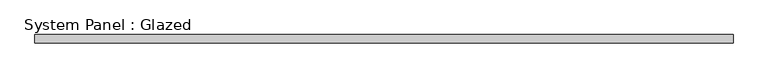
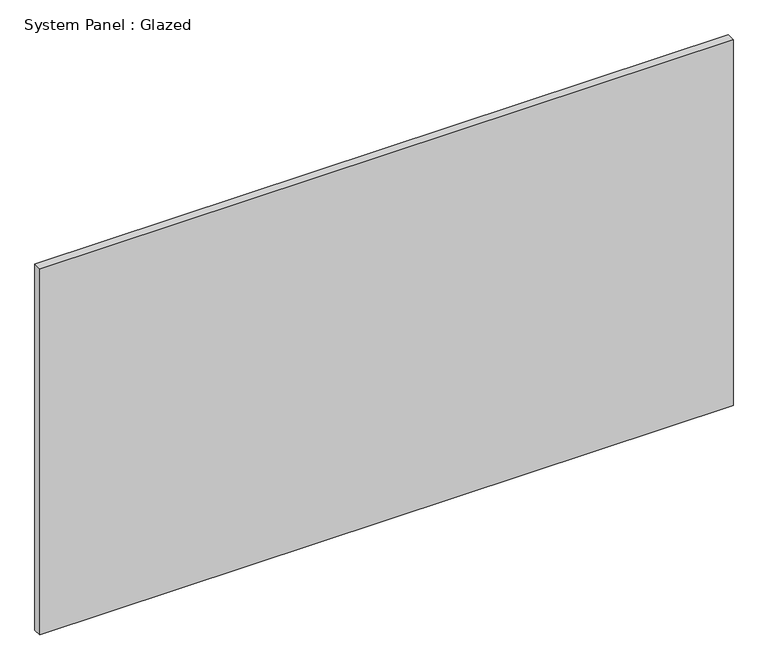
"""IFC4 building model written with IfcOpenShell, lengths in millimetres: plate geometry, System Panel : Glazed."""

import ifcopenshell
import ifcopenshell.guid

model = None  # the IFC model being written
_history = None  # IfcOwnerHistory: only IFC2X3 demands one
_inside = {}  # id of a spatial element -> (the spatial element, [elements in it])
_under = {}  # id of a project, library or spatial element -> (it, [spatial elements below it])
_declared = {}  # id of a project -> (the project, [libraries it declares])
_typed = {}  # id of a type object -> (the type object, [elements of that type])
_made_of = {}  # id of a material, layer set ... -> (it, [elements and type objects made of it])


def new_model(schema):
    """Start an empty IFC model of exactly this schema.

    Asked for "IFC4X3", IfcOpenShell would pick the latest addendum, in which some entities
    have other attributes; the version numbers below select the first issue.
    IFC2X3 requires an IfcOwnerHistory on every rooted entity: one is made here for all.
    """
    global model, _history
    if schema == "IFC4X3":
        model = ifcopenshell.file(schema_version=(4, 3, 0, 0))
    else:
        model = ifcopenshell.file(schema=schema)
    _inside.clear()
    _under.clear()
    _declared.clear()
    _typed.clear()
    _made_of.clear()
    _history = None
    if model.schema == "IFC2X3":
        org = make("IfcOrganization", Name="unknown")
        user = make(
            "IfcPersonAndOrganization",
            ThePerson=make("IfcPerson", FamilyName="unknown"),
            TheOrganization=org,
        )
        app = make(
            "IfcApplication",
            ApplicationDeveloper=org,
            Version="unknown",
            ApplicationFullName="unknown",
            ApplicationIdentifier="unknown",
        )
        _history = make(
            "IfcOwnerHistory",
            OwningUser=user,
            OwningApplication=app,
            ChangeAction="ADDED",
            CreationDate=0,
        )
    return model


def make(cls, **values):
    """One entity of the class cls with the attributes given. An attribute that is None is left unset."""
    return model.create_entity(
        cls, **{name: value for name, value in values.items() if value is not None}
    )


def rooted(cls, **values):
    """An entity with a GlobalId (a new one), such as an element, a storey or a relation."""
    return make(cls, GlobalId=ifcopenshell.guid.new(), OwnerHistory=_history, **values)


def si_unit(unit_type, name, prefix=None):
    """IfcSIUnit, for example si_unit("LENGTHUNIT", "METRE", prefix="MILLI")."""
    return make("IfcSIUnit", UnitType=unit_type, Prefix=prefix, Name=name)


def assignment(units):
    """IfcUnitAssignment: the units of a project."""
    return None if units is None else make("IfcUnitAssignment", Units=units)


def point(xyz):
    """IfcCartesianPoint."""
    return None if xyz is None else make("IfcCartesianPoint", Coordinates=xyz)


def direction(xyz):
    """IfcDirection."""
    return None if xyz is None else make("IfcDirection", DirectionRatios=xyz)


def frame(location, z_axis=None, x_axis=None):
    """IfcAxis2Placement3D, a coordinate frame: its origin and axes. An axis left out is left unset."""
    return make(
        "IfcAxis2Placement3D",
        Location=point(location),
        Axis=direction(z_axis),
        RefDirection=direction(x_axis),
    )


def origin():
    """The frame at (0, 0, 0) with its axes left unset."""
    return frame((0.0, 0.0, 0.0))


def origin_with_axes():
    """The frame at (0, 0, 0) with the z axis (0, 0, 1) and the x axis (1, 0, 0) written out."""
    return frame((0.0, 0.0, 0.0), z_axis=(0.0, 0.0, 1.0), x_axis=(1.0, 0.0, 0.0))


def place(relative_to, where):
    """IfcLocalPlacement: puts the frame where relative to a parent placement (None: the world)."""
    return make(
        "IfcLocalPlacement", PlacementRelTo=relative_to, RelativePlacement=where
    )


def context(
    kind, dimensions, precision=None, world=None, true_north=None, identifier=None
):
    """IfcGeometricRepresentationContext, for example the 3D "Model" context."""
    return make(
        "IfcGeometricRepresentationContext",
        ContextIdentifier=identifier,
        ContextType=kind,
        CoordinateSpaceDimension=dimensions,
        Precision=precision,
        WorldCoordinateSystem=world,
        TrueNorth=true_north,
    )


def project(units=None, contexts=None):
    """IfcProject with its units and contexts."""
    return rooted(
        "IfcProject",
        Name="project",
        RepresentationContexts=contexts,
        UnitsInContext=assignment(units),
    )


def spatial(cls, under=None, at=None, **own):
    """A site, building, storey or space (cls), placed at a placement, below another one or the project."""
    s = rooted(cls, ObjectPlacement=at, **own)
    if under is not None:
        _under.setdefault(under.id(), (under, []))[1].append(s)
    return s


def polyline(points):
    """IfcPolyline through the points."""
    return make("IfcPolyline", Points=[point(p) for p in points])


def outline(outer, holes=None, kind="AREA"):
    """IfcArbitraryClosedProfileDef: a profile drawn as a closed curve; with holes, ...WithVoids."""
    if holes is None:
        return make("IfcArbitraryClosedProfileDef", ProfileType=kind, OuterCurve=outer)
    return make(
        "IfcArbitraryProfileDefWithVoids",
        ProfileType=kind,
        OuterCurve=outer,
        InnerCurves=holes,
    )


def extrude(swept, where, along, depth):
    """IfcExtrudedAreaSolid: the profile swept, set in the frame where, extruded along a direction by depth."""
    return make(
        "IfcExtrudedAreaSolid",
        SweptArea=swept,
        Position=where,
        ExtrudedDirection=direction(along),
        Depth=depth,
    )


def shape(context_of_items, identifier, shape_type, items):
    """IfcShapeRepresentation: the items that make up one representation, for example the "Body"."""
    return make(
        "IfcShapeRepresentation",
        ContextOfItems=context_of_items,
        RepresentationIdentifier=identifier,
        RepresentationType=shape_type,
        Items=items,
    )


def source(mapping_origin, context_of_items, identifier, shape_type, items):
    """IfcRepresentationMap: a shape defined once, which mapped items show again and again."""
    return make(
        "IfcRepresentationMap",
        MappingOrigin=mapping_origin,
        MappedRepresentation=shape(context_of_items, identifier, shape_type, items),
    )


def transform(
    local_origin,
    x_axis=None,
    y_axis=None,
    z_axis=None,
    scale=None,
    scale2=None,
    scale3=None,
    uniform=True,
):
    """IfcCartesianTransformationOperator3D, or its non-uniform kind. x_axis, y_axis, z_axis: its Axis1, 2, 3."""
    if uniform:
        return make(
            "IfcCartesianTransformationOperator3D",
            Axis1=direction(x_axis),
            Axis2=direction(y_axis),
            LocalOrigin=point(local_origin),
            Scale=scale,
            Axis3=direction(z_axis),
        )
    return make(
        "IfcCartesianTransformationOperator3DnonUniform",
        Axis1=direction(x_axis),
        Axis2=direction(y_axis),
        LocalOrigin=point(local_origin),
        Scale=scale,
        Axis3=direction(z_axis),
        Scale2=scale2,
        Scale3=scale3,
    )


def mapped(mapping_source, mapping_target):
    """IfcMappedItem: shows the shape of a source again, moved by a transform."""
    return make(
        "IfcMappedItem", MappingSource=mapping_source, MappingTarget=mapping_target
    )


def made_of(thing, what):
    """Note that an element or type object is made of a material, layer set ...; save() writes the relation."""
    if what is not None:
        _made_of.setdefault(what.id(), (what, []))[1].append(thing)
    return thing


def element(
    cls,
    number,
    at=None,
    inside=None,
    cuts=None,
    type_object=None,
    material=None,
    context=None,
    identifier="Body",
    shape_type=None,
    held_by="IfcProductDefinitionShape",
    body=None,
    shapes=None,
    **own,
):
    """One element of the class cls, such as IfcWall. Its Tag is "e" and its number.

    at: its placement. inside: the storey or other place that contains it. cuts: it is an
    opening in that element (IfcRelVoidsElement). A single representation is given by context,
    identifier, shape_type and body (its items); several are given by shapes. held_by: the class
    of the entity that holds the representations. save() writes the other relations.
    """
    e = rooted(cls, Tag="e%d" % number, ObjectPlacement=at, **own)
    if body is not None:
        shapes = [shape(context, identifier, shape_type, body)]
    if shapes is not None:
        e.Representation = make(held_by, Representations=shapes)
    if inside is not None:
        _inside.setdefault(inside.id(), (inside, []))[1].append(e)
    if cuts is not None:
        rooted(
            "IfcRelVoidsElement", RelatingBuildingElement=cuts, RelatedOpeningElement=e
        )
    if type_object is not None:
        _typed.setdefault(type_object.id(), (type_object, []))[1].append(e)
    return made_of(e, material)


def aggregate(whole, parts):
    """IfcRelAggregates: a whole, such as a stair, and the parts it consists of."""
    return rooted("IfcRelAggregates", RelatingObject=whole, RelatedObjects=parts)


def save(model, path):
    """Write the relations noted so far, then the file.

    IfcRelAggregates (storeys below a building ...), IfcRelContainedInSpatialStructure (elements
    in a storey), IfcRelDefinesByType, IfcRelAssociatesMaterial and IfcRelDeclares: one each for
    every whole, place, type object, material and project.
    """
    for whole, parts in _under.values():
        aggregate(whole, parts)
    for where, things in _inside.values():
        rooted(
            "IfcRelContainedInSpatialStructure",
            RelatedElements=things,
            RelatingStructure=where,
        )
    for kind, things in _typed.values():
        rooted("IfcRelDefinesByType", RelatedObjects=things, RelatingType=kind)
    for what, things in _made_of.values():
        rooted("IfcRelAssociatesMaterial", RelatedObjects=things, RelatingMaterial=what)
    for by, libraries in _declared.values():
        rooted("IfcRelDeclares", RelatingContext=by, RelatedDefinitions=libraries)
    model.write(path)


def system_panel_glazed_6ce5e085(model_context):
    return source(origin(), model_context, "Body", "SweptSolid", [
        extrude(outline(polyline([(1035.05, 19.05), (-1035.05, 19.05), (-1035.05, 44.45), (1035.05, 44.45), (1035.05, 19.05)])), origin_with_axes(), (0.0, 0.0, 1.0), 1155.7),
    ])


if __name__ == "__main__":
    model = new_model("IFC4")
    model_context = context("Model", 3, world=origin())
    ifc_project = project(units=[si_unit("LENGTHUNIT", "METRE", prefix="MILLI")], contexts=[model_context])
    site = spatial("IfcSite", under=ifc_project)
    building = spatial("IfcBuilding", under=site)
    placement = place(None, origin())
    system_panel_glazed_shape = system_panel_glazed_6ce5e085(model_context)
    element("IfcPlate", 1, ObjectType="System Panel : Glazed", at=placement, inside=building, context=model_context, shape_type="MappedRepresentation", body=[
        mapped(system_panel_glazed_shape, transform((0.0, 0.0, 0.0), x_axis=(1.0, 0.0, 0.0), y_axis=(0.0, 1.0, 0.0), z_axis=(0.0, 0.0, 1.0))),
    ])
    save(model, "model.ifc")
